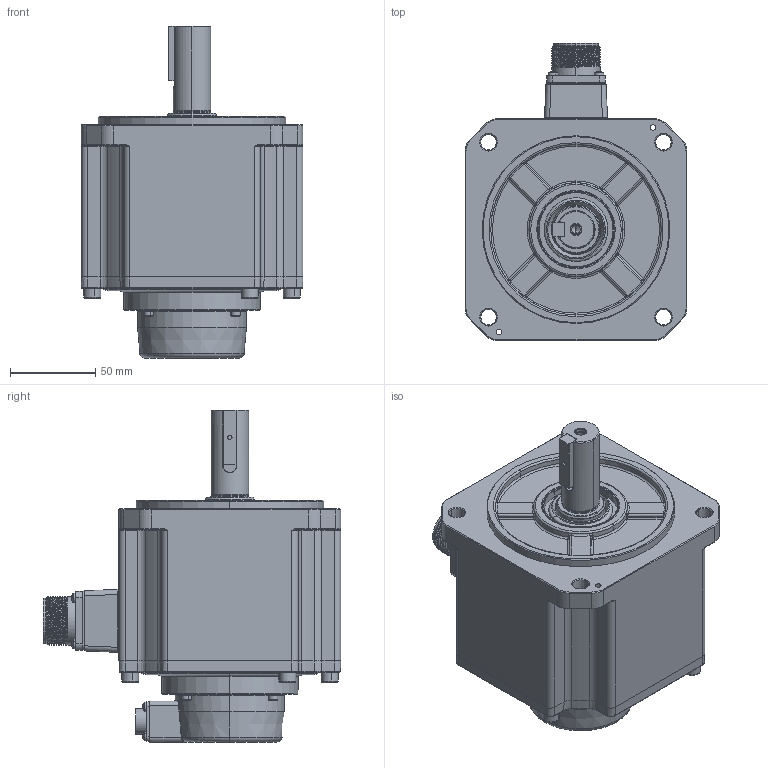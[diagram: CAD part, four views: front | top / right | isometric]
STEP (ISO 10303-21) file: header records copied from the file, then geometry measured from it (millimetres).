
FILE_DESCRIPTION (( 'STEP AP214' ), '1' );
FILE_NAME ('RSA1-M-130-0.85kw.STEP', '2024-08-12T02:09:13', ( '' ), ( '' ), 'SwSTEP 2.0', 'SolidWorks 2020', '' );
FILE_SCHEMA (( 'AUTOMOTIVE_DESIGN' ));
Length unit declared in the file: millimetre
Products named in the file (14): 内六角圆柱头螺钉_M6x20; 130雄薯瑤脣價釱; 雄薯瑤脣; ﾊｮﾗﾖｲﾛﾅﾌﾍｷﾗﾔｼｷﾂﾝｶ､_M3x8; 内六角圆柱头和平垫圈组合螺钉_M3x16; 130-蚐猾_TC30x45x8(NBR); 130-梓袧綴傷裔; 坋趼羞攫芛蹟隊_M3x30; 130-笢嫦講-粣噤22; 130梓袧綴裔; す瑩_B8x7x32; 4140000005_电机内部编码器线_7x26AWG(0.1m-CMV1-10芯螺纹插座_GACJ3045); RSA1-M-130-0.85kw; 130-M-0.85kw儂褲
Assembly tree (25 placements, depth 2):
  RSA1-M-130-0.85kw
    130-M-0.85kw儂褲
    130雄薯瑤脣價釱
    130-笢嫦講-粣噤22
    雄薯瑤脣
    130-蚐猾_TC30x45x8(NBR)
    130-梓袧綴傷裔
    130梓袧綴裔
    4140000005_电机内部编码器线_7x26AWG(0.1m-CMV1-10芯螺纹插座_GACJ3045)
    内六角圆柱头螺钉_M6x20  x4
    内六角圆柱头和平垫圈组合螺钉_M3x16  x4
    坋趼羞攫芛蹟隊_M3x30  x4
    ﾊｮﾗﾖｲﾛﾅﾌﾍｷﾗﾔｼｷﾂﾝｶ､_M3x8  x4
    す瑩_B8x7x32
Bounding box: 130 x 174.4 x 194.6 mm (x, y, z)
Volume: 1660893.7 mm3; surface area: 181543.8 mm2
Topology: 36 solids, 36 shells, 2555 faces, 6364 edges, 3965 vertices
Faces by surface type: plane 1234, cylinder 640, cone 302, torus 188, bspline 131, sphere 60
Entity records: 93346 total; most frequent: CARTESIAN_POINT 24235, DIRECTION 11096, ORIENTED_EDGE 11044, EDGE_CURVE 5522, AXIS2_PLACEMENT_3D 3897, VERTEX_POINT 3479, VECTOR 3302, LINE 3302
